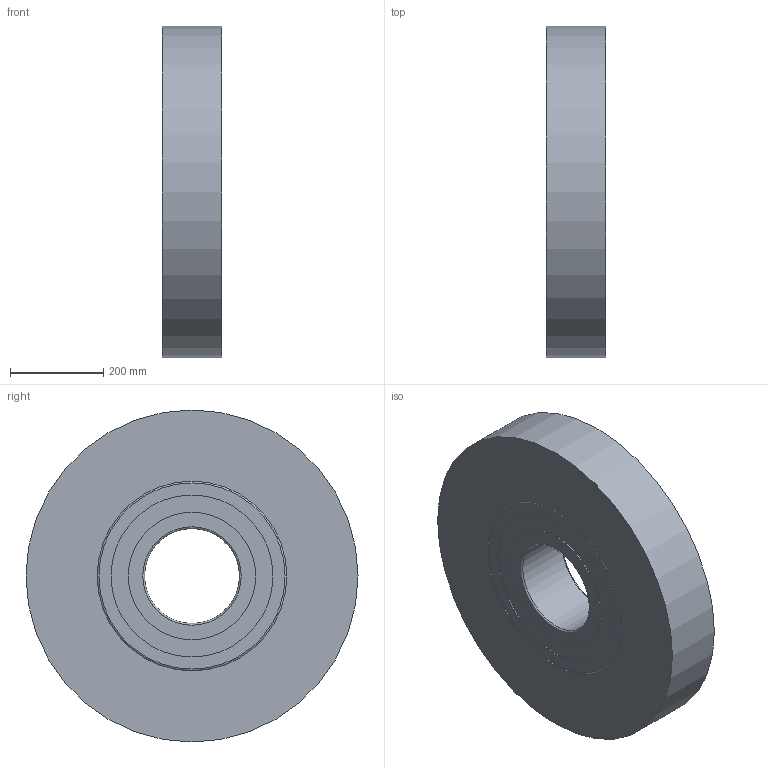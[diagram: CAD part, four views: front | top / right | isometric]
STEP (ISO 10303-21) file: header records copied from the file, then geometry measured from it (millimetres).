
FILE_DESCRIPTION((''),'1');
FILE_NAME('H:/図庫/国内ﾕﾆｯﾄ/ｶﾀﾛｸﾞ/ｺﾞﾑ直巻/ホームページ用ＣＡＤ図面/update用/3', '2017-07-14T09:09:32',(''), (''), 'KCM Version 1.1.1442.0', 'Kubotek KeyCreator', '');
FILE_SCHEMA(('AUTOMOTIVE_DESIGN'));
Length unit declared in the file: inch
Bounding box: 127 x 711.2 x 711.2 mm (x, y, z)
Surface area: 1117573.2 mm2 (no closed solid volume)
Topology: 0 solids, 20 shells, 20 faces, 68 edges, 56 vertices
Faces by surface type: cylinder 8, plane 8, torus 4
Full cylindrical faces by diameter (mm): 203.2 x1, 273.05 x2, 346.71 x2, 406.4 x2, 711.2 x1
Entity records: 790 total; most frequent: DIRECTION 154, CARTESIAN_POINT 137, ORIENTED_EDGE 80, AXIS2_PLACEMENT_3D 73, EDGE_CURVE 68, VERTEX_POINT 56, CIRCLE 52, EDGE_LOOP 28
